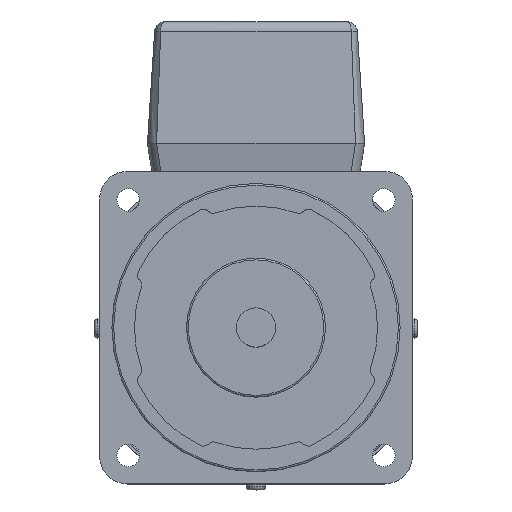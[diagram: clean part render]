
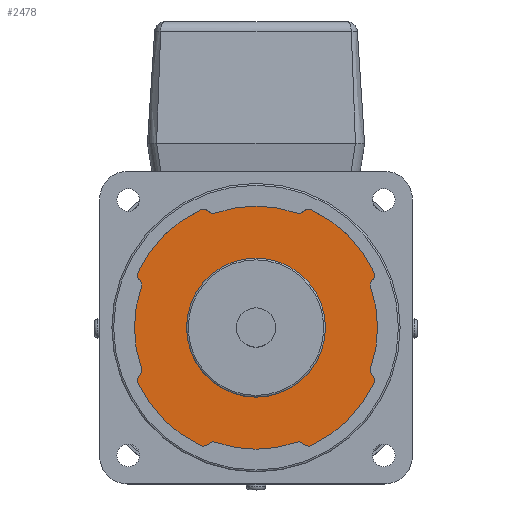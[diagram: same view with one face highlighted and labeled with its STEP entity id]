
A CAD part, top view. The second image highlights one B-rep face of the part: STEP entity #2478.
In plain terms, the highlighted planar face has unit normal (0, 0, 1).
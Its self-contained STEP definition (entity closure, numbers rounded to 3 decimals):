
#1241=CARTESIAN_POINT('',(20.0,0.,151.0));
#1242=VERTEX_POINT('',#1241);
#1243=CARTESIAN_POINT('',(0.,0.,151.0));
#1244=DIRECTION('',(0.0,0.0,-1.0));
#1245=DIRECTION('',(-1.0,0.0,0.0));
#1246=AXIS2_PLACEMENT_3D('',#1243,#1244,#1245);
#1247=CIRCLE('',#1246,20.0);
#1248=EDGE_CURVE('',#1242,#1242,#1247,.T.);
#1271=CARTESIAN_POINT('',(-13.722,-33.501,151.0));
#1272=VERTEX_POINT('',#1271);
#1288=CARTESIAN_POINT('',(-11.626,-33.013,151.0));
#1289=VERTEX_POINT('',#1288);
#1296=CARTESIAN_POINT('',(-12.291,-34.899,151.0));
#1297=DIRECTION('',(0.0,0.0,-1.0));
#1298=DIRECTION('',(-0.408,0.913,0.0));
#1299=AXIS2_PLACEMENT_3D('',#1296,#1297,#1298);
#1300=CIRCLE('',#1299,2.0);
#1301=EDGE_CURVE('',#1289,#1272,#1300,.F.);
#1321=CARTESIAN_POINT('',(11.626,-33.013,151.0));
#1322=VERTEX_POINT('',#1321);
#1329=CARTESIAN_POINT('',(0.,0.,151.));
#1330=DIRECTION('',(0.,0.,1.0));
#1331=DIRECTION('',(-0.383,-0.924,0.));
#1332=AXIS2_PLACEMENT_3D('',#1329,#1330,#1331);
#1333=CIRCLE('',#1332,35.0);
#1334=EDGE_CURVE('',#1289,#1322,#1333,.T.);
#1344=CARTESIAN_POINT('',(13.722,-33.501,151.0));
#1345=VERTEX_POINT('',#1344);
#1354=CARTESIAN_POINT('',(12.291,-34.899,151.0));
#1355=DIRECTION('',(0.0,0.0,-1.0));
#1356=DIRECTION('',(0.408,0.913,0.0));
#1357=AXIS2_PLACEMENT_3D('',#1354,#1355,#1356);
#1358=CIRCLE('',#1357,2.0);
#1359=EDGE_CURVE('',#1345,#1322,#1358,.F.);
#1386=CARTESIAN_POINT('',(16.006,-33.913,151.0));
#1387=VERTEX_POINT('',#1386);
#1394=CARTESIAN_POINT('',(15.152,-32.104,151.0));
#1395=DIRECTION('',(0.0,0.0,1.0));
#1396=DIRECTION('',(0.715,0.699,0.0));
#1397=AXIS2_PLACEMENT_3D('',#1394,#1395,#1396);
#1398=CIRCLE('',#1397,2.);
#1399=EDGE_CURVE('',#1345,#1387,#1398,.T.);
#1410=CARTESIAN_POINT('',(33.913,-16.006,151.0));
#1411=VERTEX_POINT('',#1410);
#1420=CARTESIAN_POINT('',(0.,0.,151.));
#1421=DIRECTION('',(0.,0.,1.0));
#1422=DIRECTION('',(0.383,-0.924,0.));
#1423=AXIS2_PLACEMENT_3D('',#1420,#1421,#1422);
#1424=CIRCLE('',#1423,37.5);
#1425=EDGE_CURVE('',#1387,#1411,#1424,.T.);
#1452=CARTESIAN_POINT('',(33.501,-13.722,151.0));
#1453=VERTEX_POINT('',#1452);
#1460=CARTESIAN_POINT('',(32.104,-15.152,151.0));
#1461=DIRECTION('',(0.0,0.0,1.0));
#1462=DIRECTION('',(-0.904,0.427,0.0));
#1463=AXIS2_PLACEMENT_3D('',#1460,#1461,#1462);
#1464=CIRCLE('',#1463,2.);
#1465=EDGE_CURVE('',#1411,#1453,#1464,.T.);
#1486=CARTESIAN_POINT('',(33.013,-11.626,151.0));
#1487=VERTEX_POINT('',#1486);
#1494=CARTESIAN_POINT('',(34.899,-12.291,151.0));
#1495=DIRECTION('',(0.0,0.0,-1.0));
#1496=DIRECTION('',(-0.913,-0.408,0.0));
#1497=AXIS2_PLACEMENT_3D('',#1494,#1495,#1496);
#1498=CIRCLE('',#1497,2.0);
#1499=EDGE_CURVE('',#1487,#1453,#1498,.F.);
#1509=CARTESIAN_POINT('',(33.013,11.626,151.0));
#1510=VERTEX_POINT('',#1509);
#1519=CARTESIAN_POINT('',(0.,0.,151.));
#1520=DIRECTION('',(0.,0.,1.0));
#1521=DIRECTION('',(0.924,-0.383,0.));
#1522=AXIS2_PLACEMENT_3D('',#1519,#1520,#1521);
#1523=CIRCLE('',#1522,35.);
#1524=EDGE_CURVE('',#1487,#1510,#1523,.T.);
#1542=CARTESIAN_POINT('',(33.501,13.722,151.0));
#1543=VERTEX_POINT('',#1542);
#1552=CARTESIAN_POINT('',(34.899,12.291,151.0));
#1553=DIRECTION('',(0.0,0.0,-1.0));
#1554=DIRECTION('',(-0.913,0.408,0.0));
#1555=AXIS2_PLACEMENT_3D('',#1552,#1553,#1554);
#1556=CIRCLE('',#1555,2.0);
#1557=EDGE_CURVE('',#1543,#1510,#1556,.F.);
#1584=CARTESIAN_POINT('',(33.913,16.006,151.0));
#1585=VERTEX_POINT('',#1584);
#1592=CARTESIAN_POINT('',(32.104,15.152,151.0));
#1593=DIRECTION('',(0.0,0.0,1.0));
#1594=DIRECTION('',(-0.699,0.715,0.0));
#1595=AXIS2_PLACEMENT_3D('',#1592,#1593,#1594);
#1596=CIRCLE('',#1595,2.);
#1597=EDGE_CURVE('',#1543,#1585,#1596,.T.);
#1608=CARTESIAN_POINT('',(16.006,33.913,151.0));
#1609=VERTEX_POINT('',#1608);
#1618=CARTESIAN_POINT('',(0.,0.,151.));
#1619=DIRECTION('',(0.,0.,1.0));
#1620=DIRECTION('',(0.924,0.383,0.));
#1621=AXIS2_PLACEMENT_3D('',#1618,#1619,#1620);
#1622=CIRCLE('',#1621,37.5);
#1623=EDGE_CURVE('',#1585,#1609,#1622,.T.);
#1650=CARTESIAN_POINT('',(13.722,33.501,151.0));
#1651=VERTEX_POINT('',#1650);
#1658=CARTESIAN_POINT('',(15.152,32.104,151.0));
#1659=DIRECTION('',(0.0,0.0,1.0));
#1660=DIRECTION('',(-0.427,-0.904,0.0));
#1661=AXIS2_PLACEMENT_3D('',#1658,#1659,#1660);
#1662=CIRCLE('',#1661,2.);
#1663=EDGE_CURVE('',#1609,#1651,#1662,.T.);
#1684=CARTESIAN_POINT('',(11.626,33.013,151.0));
#1685=VERTEX_POINT('',#1684);
#1692=CARTESIAN_POINT('',(12.291,34.899,151.0));
#1693=DIRECTION('',(0.0,0.0,-1.0));
#1694=DIRECTION('',(0.408,-0.913,0.0));
#1695=AXIS2_PLACEMENT_3D('',#1692,#1693,#1694);
#1696=CIRCLE('',#1695,2.0);
#1697=EDGE_CURVE('',#1685,#1651,#1696,.F.);
#1707=CARTESIAN_POINT('',(-11.626,33.013,151.0));
#1708=VERTEX_POINT('',#1707);
#1717=CARTESIAN_POINT('',(0.,0.,151.));
#1718=DIRECTION('',(0.,0.,1.0));
#1719=DIRECTION('',(0.383,0.924,0.));
#1720=AXIS2_PLACEMENT_3D('',#1717,#1718,#1719);
#1721=CIRCLE('',#1720,35.0);
#1722=EDGE_CURVE('',#1685,#1708,#1721,.T.);
#1740=CARTESIAN_POINT('',(-13.722,33.501,151.0));
#1741=VERTEX_POINT('',#1740);
#1750=CARTESIAN_POINT('',(-12.291,34.899,151.0));
#1751=DIRECTION('',(0.0,0.0,-1.0));
#1752=DIRECTION('',(-0.408,-0.913,0.0));
#1753=AXIS2_PLACEMENT_3D('',#1750,#1751,#1752);
#1754=CIRCLE('',#1753,2.0);
#1755=EDGE_CURVE('',#1741,#1708,#1754,.F.);
#1782=CARTESIAN_POINT('',(-16.006,33.913,151.0));
#1783=VERTEX_POINT('',#1782);
#1790=CARTESIAN_POINT('',(-15.152,32.104,151.0));
#1791=DIRECTION('',(0.0,0.0,1.0));
#1792=DIRECTION('',(-0.715,-0.699,0.0));
#1793=AXIS2_PLACEMENT_3D('',#1790,#1791,#1792);
#1794=CIRCLE('',#1793,2.);
#1795=EDGE_CURVE('',#1741,#1783,#1794,.T.);
#1816=CARTESIAN_POINT('',(-33.913,16.006,151.0));
#1817=VERTEX_POINT('',#1816);
#1824=CARTESIAN_POINT('',(0.,0.,151.));
#1825=DIRECTION('',(0.,0.,1.0));
#1826=DIRECTION('',(-0.383,0.924,0.));
#1827=AXIS2_PLACEMENT_3D('',#1824,#1825,#1826);
#1828=CIRCLE('',#1827,37.5);
#1829=EDGE_CURVE('',#1783,#1817,#1828,.T.);
#1848=CARTESIAN_POINT('',(-33.501,13.722,151.0));
#1849=VERTEX_POINT('',#1848);
#1856=CARTESIAN_POINT('',(-32.104,15.152,151.0));
#1857=DIRECTION('',(0.0,0.0,1.0));
#1858=DIRECTION('',(0.904,-0.427,0.0));
#1859=AXIS2_PLACEMENT_3D('',#1856,#1857,#1858);
#1860=CIRCLE('',#1859,2.);
#1861=EDGE_CURVE('',#1817,#1849,#1860,.T.);
#1882=CARTESIAN_POINT('',(-33.013,11.626,151.0));
#1883=VERTEX_POINT('',#1882);
#1890=CARTESIAN_POINT('',(-34.899,12.291,151.0));
#1891=DIRECTION('',(0.0,0.0,-1.0));
#1892=DIRECTION('',(0.913,0.408,0.0));
#1893=AXIS2_PLACEMENT_3D('',#1890,#1891,#1892);
#1894=CIRCLE('',#1893,2.0);
#1895=EDGE_CURVE('',#1883,#1849,#1894,.F.);
#1905=CARTESIAN_POINT('',(-33.013,-11.626,151.0));
#1906=VERTEX_POINT('',#1905);
#1915=CARTESIAN_POINT('',(0.,0.,151.));
#1916=DIRECTION('',(0.,0.,1.0));
#1917=DIRECTION('',(-0.924,0.383,0.));
#1918=AXIS2_PLACEMENT_3D('',#1915,#1916,#1917);
#1919=CIRCLE('',#1918,35.0);
#1920=EDGE_CURVE('',#1883,#1906,#1919,.T.);
#1938=CARTESIAN_POINT('',(-33.501,-13.722,151.0));
#1939=VERTEX_POINT('',#1938);
#1948=CARTESIAN_POINT('',(-34.899,-12.291,151.0));
#1949=DIRECTION('',(0.0,0.0,-1.0));
#1950=DIRECTION('',(0.913,-0.408,0.0));
#1951=AXIS2_PLACEMENT_3D('',#1948,#1949,#1950);
#1952=CIRCLE('',#1951,2.0);
#1953=EDGE_CURVE('',#1939,#1906,#1952,.F.);
#1980=CARTESIAN_POINT('',(-33.913,-16.006,151.0));
#1981=VERTEX_POINT('',#1980);
#1988=CARTESIAN_POINT('',(-32.104,-15.152,151.0));
#1989=DIRECTION('',(0.0,0.0,1.0));
#1990=DIRECTION('',(0.699,-0.715,0.0));
#1991=AXIS2_PLACEMENT_3D('',#1988,#1989,#1990);
#1992=CIRCLE('',#1991,2.);
#1993=EDGE_CURVE('',#1939,#1981,#1992,.T.);
#2004=CARTESIAN_POINT('',(-16.006,-33.913,151.0));
#2005=VERTEX_POINT('',#2004);
#2014=CARTESIAN_POINT('',(0.,0.,151.));
#2015=DIRECTION('',(0.,0.,1.0));
#2016=DIRECTION('',(-0.924,-0.383,0.));
#2017=AXIS2_PLACEMENT_3D('',#2014,#2015,#2016);
#2018=CIRCLE('',#2017,37.5);
#2019=EDGE_CURVE('',#1981,#2005,#2018,.T.);
#2045=CARTESIAN_POINT('',(-15.152,-32.104,151.0));
#2046=DIRECTION('',(0.0,0.0,1.0));
#2047=DIRECTION('',(0.427,0.904,0.0));
#2048=AXIS2_PLACEMENT_3D('',#2045,#2046,#2047);
#2049=CIRCLE('',#2048,2.);
#2050=EDGE_CURVE('',#2005,#1272,#2049,.T.);
#2444=CARTESIAN_POINT('',(0.,0.,151.0));
#2445=DIRECTION('',(0.0,0.0,1.0));
#2446=DIRECTION('',(1.0,0.0,0.0));
#2447=AXIS2_PLACEMENT_3D('',#2444,#2445,#2446);
#2448=PLANE('',#2447);
#2449=ORIENTED_EDGE('',*,*,#2050,.T.);
#2450=ORIENTED_EDGE('',*,*,#1301,.F.);
#2451=ORIENTED_EDGE('',*,*,#1334,.T.);
#2452=ORIENTED_EDGE('',*,*,#1359,.F.);
#2453=ORIENTED_EDGE('',*,*,#1399,.T.);
#2454=ORIENTED_EDGE('',*,*,#1425,.T.);
#2455=ORIENTED_EDGE('',*,*,#1465,.T.);
#2456=ORIENTED_EDGE('',*,*,#1499,.F.);
#2457=ORIENTED_EDGE('',*,*,#1524,.T.);
#2458=ORIENTED_EDGE('',*,*,#1557,.F.);
#2459=ORIENTED_EDGE('',*,*,#1597,.T.);
#2460=ORIENTED_EDGE('',*,*,#1623,.T.);
#2461=ORIENTED_EDGE('',*,*,#1663,.T.);
#2462=ORIENTED_EDGE('',*,*,#1697,.F.);
#2463=ORIENTED_EDGE('',*,*,#1722,.T.);
#2464=ORIENTED_EDGE('',*,*,#1755,.F.);
#2465=ORIENTED_EDGE('',*,*,#1795,.T.);
#2466=ORIENTED_EDGE('',*,*,#1829,.T.);
#2467=ORIENTED_EDGE('',*,*,#1861,.T.);
#2468=ORIENTED_EDGE('',*,*,#1895,.F.);
#2469=ORIENTED_EDGE('',*,*,#1920,.T.);
#2470=ORIENTED_EDGE('',*,*,#1953,.F.);
#2471=ORIENTED_EDGE('',*,*,#1993,.T.);
#2472=ORIENTED_EDGE('',*,*,#2019,.T.);
#2473=EDGE_LOOP('',(#2449,#2450,#2451,#2452,#2453,#2454,#2455,#2456,#2457,#2458,#2459,#2460,#2461,#2462,#2463,#2464,#2465,#2466,#2467,#2468,#2469,#2470,#2471,#2472));
#2474=FACE_OUTER_BOUND('',#2473,.T.);
#2475=ORIENTED_EDGE('',*,*,#1248,.T.);
#2476=EDGE_LOOP('',(#2475));
#2477=FACE_BOUND('',#2476,.T.);
#2478=ADVANCED_FACE('',(#2474,#2477),#2448,.T.);
